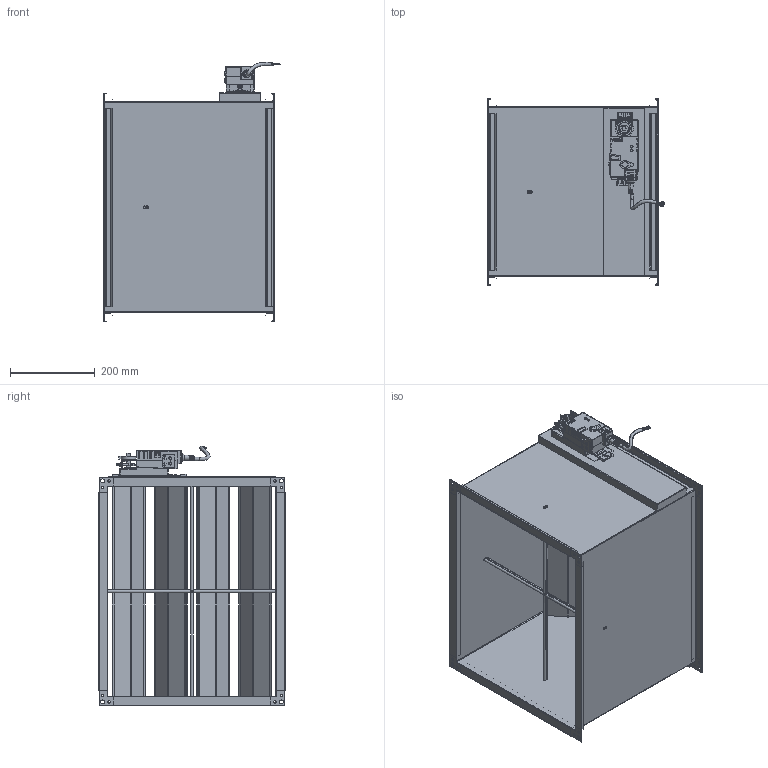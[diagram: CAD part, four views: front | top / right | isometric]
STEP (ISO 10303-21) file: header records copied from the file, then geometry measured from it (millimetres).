
FILE_DESCRIPTION (( 'STEP AP214' ), '1' );
FILE_NAME ('VAV-S500400.STEP', '2025-05-07T13:45:03', ( '' ), ( '' ), 'SwSTEP 2.0', 'SolidWorks 2025', '' );
FILE_SCHEMA (( 'AUTOMOTIVE_DESIGN' ));
Length unit declared in the file: millimetre
Products named in the file (1): VAV-S500400
Bounding box: 419.61 x 441 x 613.69 mm (x, y, z)
Surface area: 2701788.1 mm2 (no closed solid volume)
Topology: 0 solids, 58 shells, 2110 faces, 5451 edges, 3464 vertices
Faces by surface type: plane 1541, cylinder 516, bspline 24, sphere 18, cone 10, torus 1
Full cylindrical faces by diameter (mm): 1 x4, 4 x8, 5.876 x4, 6 x5, 6.102 x8, 8 x1, 9 x8, 10 x1, 11 x1, 21 x2
Entity records: 91993 total; most frequent: CARTESIAN_POINT 41799, ORIENTED_EDGE 10659, DIRECTION 6877, EDGE_CURVE 5353, VERTEX_POINT 3433, B_SPLINE_CURVE_WITH_KNOTS 3162, AXIS2_PLACEMENT_3D 2631, EDGE_LOOP 2321
